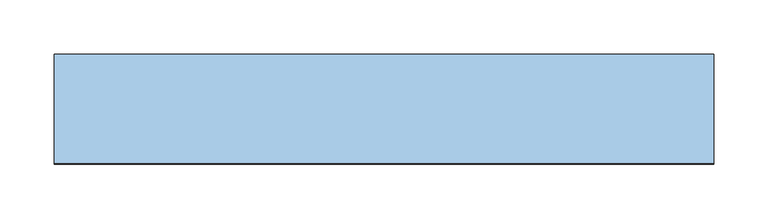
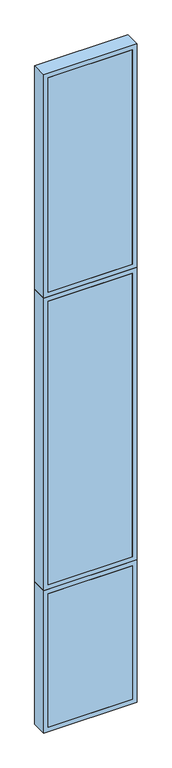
"""IFC4 building model written with IfcOpenShell, lengths in millimetres: window geometry, TRP_CP_ARC_FI_V1 : AL_P01_60.5."""

from ifc_helpers import new_model, si_unit, frame, origin, place, context, project, spatial, polyline, outline, extrude, source, transform, mapped, element, save


def window_dc9eccbe(model_context):
    return source(origin(), model_context, "Body", "SweptSolid", [
        extrude(outline(polyline([(272.5, -50.0), (-272.5, -50.0), (-272.5, -30.0), (272.5, -30.0), (272.5, -50.0)])), frame((0.0, 0.0, 30.0), z_axis=(0.0, 0.0, 1.0), x_axis=(1.0, 0.0, 0.0)), (0.0, 0.0, 1.0), 913.0),
        extrude(outline(polyline([(973.0, 302.5), (973.0, -302.5), (0.0, -302.5), (0.0, 302.5), (973.0, 302.5)]), holes=[polyline([(30.0, 272.5), (30.0, -272.5), (943.0, -272.5), (943.0, 272.5), (30.0, 272.5)])]), frame((0.0, -50.0, 0.0), z_axis=(0.0, 1.0, 0.0), x_axis=(0.0, 0.0, 1.0)), (0.0, 0.0, 1.0), 100.0),
        extrude(outline(polyline([(2973.0, 302.5), (2973.0, -302.5), (973.0, -302.5), (973.0, 302.5), (2973.0, 302.5)]), holes=[polyline([(1003.0, 272.5), (1003.0, -272.5), (2943.0, -272.5), (2943.0, 272.5), (1003.0, 272.5)])]), frame((0.0, -50.0, 0.0), z_axis=(0.0, 1.0, 0.0), x_axis=(0.0, 0.0, 1.0)), (0.0, 0.0, 1.0), 100.0),
        extrude(outline(polyline([(272.5, -50.0), (-272.5, -50.0), (-272.5, -30.0), (272.5, -30.0), (272.5, -50.0)])), frame((0.0, 0.0, 1003.0), z_axis=(0.0, 0.0, 1.0), x_axis=(1.0, 0.0, 0.0)), (0.0, 0.0, 1.0), 1940.0),
        extrude(outline(polyline([(4500.0, 302.5), (4500.0, -302.5), (2973.0, -302.5), (2973.0, 302.5), (4500.0, 302.5)]), holes=[polyline([(3003.0, 272.5), (3003.0, -272.5), (4470.0, -272.5), (4470.0, 272.5), (3003.0, 272.5)])]), frame((0.0, -50.0, 0.0), z_axis=(0.0, 1.0, 0.0), x_axis=(0.0, 0.0, 1.0)), (0.0, 0.0, 1.0), 100.0),
        extrude(outline(polyline([(272.5, -50.0), (-272.5, -50.0), (-272.5, -30.0), (272.5, -30.0), (272.5, -50.0)])), frame((0.0, 0.0, 3003.0), z_axis=(0.0, 0.0, 1.0), x_axis=(1.0, 0.0, 0.0)), (0.0, 0.0, 1.0), 1467.0),
    ])


if __name__ == "__main__":
    model = new_model("IFC4")
    model_context = context("Model", 3, world=origin())
    ifc_project = project(units=[si_unit("LENGTHUNIT", "METRE", prefix="MILLI")], contexts=[model_context])
    site = spatial("IfcSite", under=ifc_project)
    building = spatial("IfcBuilding", under=site)
    placement = place(None, origin())
    window_shape = window_dc9eccbe(model_context)
    element("IfcWindow", 1, ObjectType="TRP_CP_ARC_FI_V1 : AL_P01_60.5", at=placement, inside=building, context=model_context, shape_type="MappedRepresentation", body=[
        mapped(window_shape, transform((0.0, 0.0, 0.0), x_axis=(1.0, 0.0, 0.0), y_axis=(0.0, 1.0, 0.0), z_axis=(0.0, 0.0, 1.0))),
    ])
    save(model, "model.ifc")
